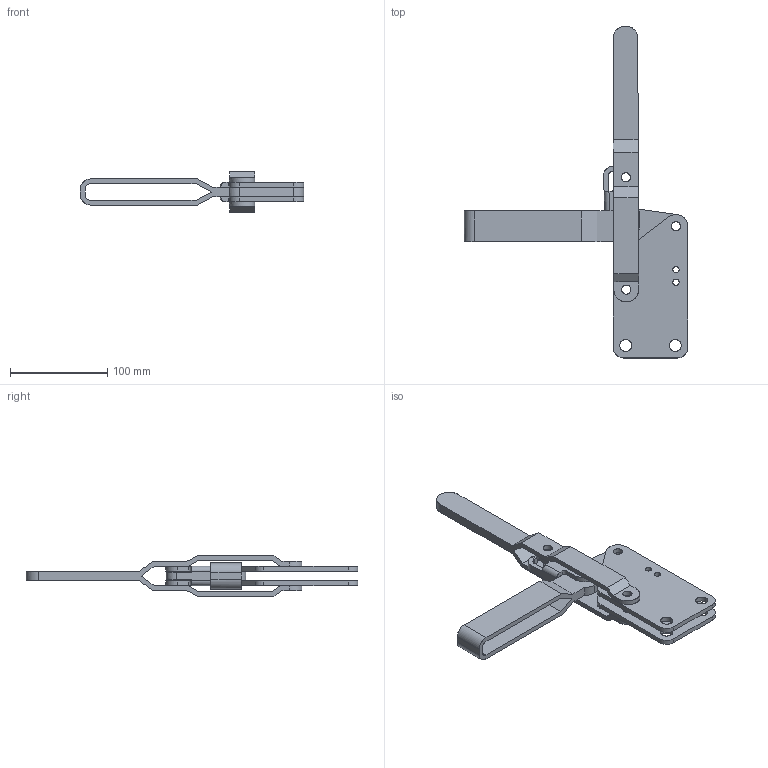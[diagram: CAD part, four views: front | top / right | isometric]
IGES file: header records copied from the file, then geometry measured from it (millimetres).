
Start section: Comment
Global section: file name: 101jsb.igs; native system:  By Spatial Corp.; preprocessor: XPlus PS/IGES 3.0; author: Author; organization: Title; date: 20050216.163538; units: inch
Bounding box: 229.2 x 340.78 x 42 mm (x, y, z)
Surface area: 111918.9 mm2 (no closed solid volume)
Topology: 0 solids, 0 shells, 153 faces, 866 edges, 866 vertices
Faces by surface type: revolution 78, extrusion 75
